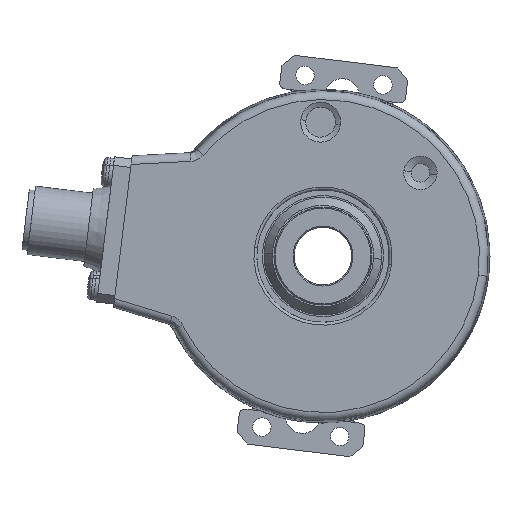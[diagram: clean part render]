
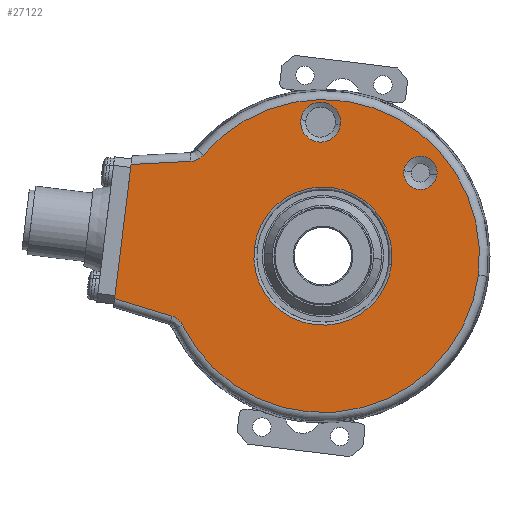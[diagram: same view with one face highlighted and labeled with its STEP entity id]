
A CAD part, left-side view. The second image highlights one B-rep face of the part: STEP entity #27122.
In plain terms, the highlighted planar face has unit normal (-1, 0, 0).
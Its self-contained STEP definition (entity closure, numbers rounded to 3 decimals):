
#5136 = ORIENTED_EDGE ( 'NONE', *, *, #5868, .T. ) ;
#5137 = ORIENTED_EDGE ( 'NONE', *, *, #6101, .T. ) ;
#5138 = ORIENTED_EDGE ( 'NONE', *, *, #6102, .T. ) ;
#5139 = ORIENTED_EDGE ( 'NONE', *, *, #5872, .T. ) ;
#5140 = ORIENTED_EDGE ( 'NONE', *, *, #6103, .T. ) ;
#5141 = ORIENTED_EDGE ( 'NONE', *, *, #6019, .T. ) ;
#5142 = ORIENTED_EDGE ( 'NONE', *, *, #6104, .F. ) ;
#5143 = ORIENTED_EDGE ( 'NONE', *, *, #6105, .F. ) ;
#5144 = ORIENTED_EDGE ( 'NONE', *, *, #6100, .T. ) ;
#5145 = ORIENTED_EDGE ( 'NONE', *, *, #6106, .T. ) ;
#5146 = ORIENTED_EDGE ( 'NONE', *, *, #6107, .F. ) ;
#5147 = ORIENTED_EDGE ( 'NONE', *, *, #6108, .T. ) ;
#5148 = ORIENTED_EDGE ( 'NONE', *, *, #6002, .T. ) ;
#5466 = VERTEX_POINT ( 'NONE', #14883 ) ;
#5471 = VERTEX_POINT ( 'NONE', #14888 ) ;
#5472 = VERTEX_POINT ( 'NONE', #14889 ) ;
#5480 = VERTEX_POINT ( 'NONE', #14897 ) ;
#5868 = EDGE_CURVE ( 'NONE', #5466, #5471, #7436, .T. ) ;
#5872 = EDGE_CURVE ( 'NONE', #5472, #5480, #7432, .T. ) ;
#6002 = EDGE_CURVE ( 'NONE', #7903, #7904, #7523, .T. ) ;
#6019 = EDGE_CURVE ( 'NONE', #7914, #7913, #7530, .T. ) ;
#6100 = EDGE_CURVE ( 'NONE', #7973, #7974, #16151, .T. ) ;
#6101 = EDGE_CURVE ( 'NONE', #5471, #5466, #7567, .T. ) ;
#6102 = EDGE_CURVE ( 'NONE', #5480, #5472, #7568, .T. ) ;
#6103 = EDGE_CURVE ( 'NONE', #7913, #7914, #7569, .T. ) ;
#6104 = EDGE_CURVE ( 'NONE', #7973, #7904, #36165, .T. ) ;
#6105 = EDGE_CURVE ( 'NONE', #7975, #7974, #16173, .T. ) ;
#6106 = EDGE_CURVE ( 'NONE', #7975, #7976, #16176, .T. ) ;
#6107 = EDGE_CURVE ( 'NONE', #7977, #7976, #36172, .T. ) ;
#6108 = EDGE_CURVE ( 'NONE', #7977, #7903, #7570, .T. ) ;
#7432 = CIRCLE ( 'NONE', #14008, 3.466 ) ;
#7436 = CIRCLE ( 'NONE', #14002, 2.899 ) ;
#7523 = CIRCLE ( 'NONE', #14163, 27.173 ) ;
#7530 = CIRCLE ( 'NONE', #14181, 12. ) ;
#7567 = CIRCLE ( 'NONE', #14243, 2.899 ) ;
#7568 = CIRCLE ( 'NONE', #14241, 3.466 ) ;
#7569 = CIRCLE ( 'NONE', #14244, 12. ) ;
#7570 = CIRCLE ( 'NONE', #14253, 27.173 ) ;
#7903 = VERTEX_POINT ( 'NONE', #22791 ) ;
#7904 = VERTEX_POINT ( 'NONE', #22792 ) ;
#7913 = VERTEX_POINT ( 'NONE', #22801 ) ;
#7914 = VERTEX_POINT ( 'NONE', #22802 ) ;
#7973 = VERTEX_POINT ( 'NONE', #22861 ) ;
#7974 = VERTEX_POINT ( 'NONE', #22862 ) ;
#7975 = VERTEX_POINT ( 'NONE', #22863 ) ;
#7976 = VERTEX_POINT ( 'NONE', #22864 ) ;
#7977 = VERTEX_POINT ( 'NONE', #22865 ) ;
#9266 = EDGE_LOOP ( 'NONE', ( #5142, #5144, #5143, #5145, #5146, #5147, #5148 ) ) ;
#9268 = EDGE_LOOP ( 'NONE', ( #5139, #5138 ) ) ;
#9340 = EDGE_LOOP ( 'NONE', ( #5136, #5137 ) ) ;
#9342 = EDGE_LOOP ( 'NONE', ( #5141, #5140 ) ) ;
#14002 = AXIS2_PLACEMENT_3D ( 'NONE', #15291, #15292, #15293 ) ;
#14008 = AXIS2_PLACEMENT_3D ( 'NONE', #15303, #15304, #15305 ) ;
#14163 = AXIS2_PLACEMENT_3D ( 'NONE', #15777, #15778, #15779 ) ;
#14181 = AXIS2_PLACEMENT_3D ( 'NONE', #15828, #15829, #15830 ) ;
#14241 = AXIS2_PLACEMENT_3D ( 'NONE', #16156, #16157, #16158 ) ;
#14243 = AXIS2_PLACEMENT_3D ( 'NONE', #16150, #16154, #16155 ) ;
#14244 = AXIS2_PLACEMENT_3D ( 'NONE', #16159, #16160, #16161 ) ;
#14247 = VECTOR ( 'NONE', #16153, 1000. ) ;
#14251 = VECTOR ( 'NONE', #16175, 1000. ) ;
#14253 = AXIS2_PLACEMENT_3D ( 'NONE', #16188, #16189, #16190 ) ;
#14254 = VECTOR ( 'NONE', #16178, 1000. ) ;
#14883 = CARTESIAN_POINT ( 'NONE',  ( -19., -14.042, 14.804 ) ) ;
#14888 = CARTESIAN_POINT ( 'NONE',  ( -19., -19.796, 14.097 ) ) ;
#14889 = CARTESIAN_POINT ( 'NONE',  ( -19., 3.846, 23.669 ) ) ;
#14897 = CARTESIAN_POINT ( 'NONE',  ( -19., -3.034, 22.824 ) ) ;
#15291 = CARTESIAN_POINT ( 'NONE',  ( -19., -16.919, 14.45 ) ) ;
#15292 = DIRECTION ( 'NONE',  ( 1., 0., 0. ) ) ;
#15293 = DIRECTION ( 'NONE',  ( 0., -0.993, -0.122 ) ) ;
#15303 = CARTESIAN_POINT ( 'NONE',  ( -19., 0.406, 23.246 ) ) ;
#15304 = DIRECTION ( 'NONE',  ( 1., 0., 0. ) ) ;
#15305 = DIRECTION ( 'NONE',  ( 0., -0.993, -0.122 ) ) ;
#15777 = CARTESIAN_POINT ( 'NONE',  ( -19., 0., 0. ) ) ;
#15778 = DIRECTION ( 'NONE',  ( -1., 0., 0. ) ) ;
#15779 = DIRECTION ( 'NONE',  ( 0., -0.993, -0.122 ) ) ;
#15828 = CARTESIAN_POINT ( 'NONE',  ( -19., 0., 0. ) ) ;
#15829 = DIRECTION ( 'NONE',  ( 1., 0., 0. ) ) ;
#15830 = DIRECTION ( 'NONE',  ( 0., -0.993, -0.122 ) ) ;
#16150 = CARTESIAN_POINT ( 'NONE',  ( -19., -16.919, 14.45 ) ) ;
#16151 = LINE ( 'NONE', #16152, #14247 ) ;
#16152 = CARTESIAN_POINT ( 'NONE',  ( -19., 33.046, 15.919 ) ) ;
#16153 = DIRECTION ( 'NONE',  ( 0., 0.999, -0.052 ) ) ;
#16154 = DIRECTION ( 'NONE',  ( 1., 0., 0. ) ) ;
#16155 = DIRECTION ( 'NONE',  ( 0., -0.993, -0.122 ) ) ;
#16156 = CARTESIAN_POINT ( 'NONE',  ( -19., 0.406, 23.246 ) ) ;
#16157 = DIRECTION ( 'NONE',  ( 1., 0., 0. ) ) ;
#16158 = DIRECTION ( 'NONE',  ( 0., -0.993, -0.122 ) ) ;
#16159 = CARTESIAN_POINT ( 'NONE',  ( -19., 0., 0. ) ) ;
#16160 = DIRECTION ( 'NONE',  ( 1., 0., 0. ) ) ;
#16161 = DIRECTION ( 'NONE',  ( 0., -0.993, -0.122 ) ) ;
#16162 = CARTESIAN_POINT ( 'NONE',  ( -19., 22.914, 16.45 ) ) ;
#16163 = CARTESIAN_POINT ( 'NONE',  ( -19., 22.708, 16.461 ) ) ;
#16164 = CARTESIAN_POINT ( 'NONE',  ( -19., 22.503, 16.493 ) ) ;
#16165 = CARTESIAN_POINT ( 'NONE',  ( -19., 22.108, 16.597 ) ) ;
#16166 = CARTESIAN_POINT ( 'NONE',  ( -19., 21.917, 16.669 ) ) ;
#16167 = CARTESIAN_POINT ( 'NONE',  ( -19., 21.552, 16.851 ) ) ;
#16168 = CARTESIAN_POINT ( 'NONE',  ( -19., 21.376, 16.962 ) ) ;
#16169 = CARTESIAN_POINT ( 'NONE',  ( -19., 21.056, 17.213 ) ) ;
#16170 = CARTESIAN_POINT ( 'NONE',  ( -19., 20.91, 17.355 ) ) ;
#16171 = CARTESIAN_POINT ( 'NONE',  ( -19., 20.777, 17.512 ) ) ;
#16172 = CARTESIAN_POINT ( 'NONE',  ( -19., 24.396, -11.966 ) ) ;
#16173 = LINE ( 'NONE', #16174, #14251 ) ;
#16174 = CARTESIAN_POINT ( 'NONE',  ( -19., 36.354, -8.886 ) ) ;
#16175 = DIRECTION ( 'NONE',  ( 0., -0.122, 0.993 ) ) ;
#16176 = LINE ( 'NONE', #16177, #14254 ) ;
#16177 = CARTESIAN_POINT ( 'NONE',  ( -19., 25.556, -10.618 ) ) ;
#16178 = DIRECTION ( 'NONE',  ( 0., -0.956, -0.292 ) ) ;
#16179 = CARTESIAN_POINT ( 'NONE',  ( -19., 24.487, -11.781 ) ) ;
#16180 = CARTESIAN_POINT ( 'NONE',  ( -19., 24.597, -11.605 ) ) ;
#16181 = CARTESIAN_POINT ( 'NONE',  ( -19., 24.848, -11.282 ) ) ;
#16182 = CARTESIAN_POINT ( 'NONE',  ( -19., 24.989, -11.135 ) ) ;
#16183 = CARTESIAN_POINT ( 'NONE',  ( -19., 25.3, -10.87 ) ) ;
#16184 = CARTESIAN_POINT ( 'NONE',  ( -19., 25.471, -10.753 ) ) ;
#16185 = CARTESIAN_POINT ( 'NONE',  ( -19., 25.828, -10.557 ) ) ;
#16186 = CARTESIAN_POINT ( 'NONE',  ( -19., 26.016, -10.478 ) ) ;
#16187 = CARTESIAN_POINT ( 'NONE',  ( -19., 26.213, -10.418 ) ) ;
#16188 = CARTESIAN_POINT ( 'NONE',  ( -19., 0., 0. ) ) ;
#16189 = DIRECTION ( 'NONE',  ( -1., 0., 0. ) ) ;
#16190 = DIRECTION ( 'NONE',  ( 0., -0.993, -0.122 ) ) ;
#22791 = CARTESIAN_POINT ( 'NONE',  ( -19., -26.97, -3.312 ) ) ;
#22792 = CARTESIAN_POINT ( 'NONE',  ( -19., 20.777, 17.512 ) ) ;
#22801 = CARTESIAN_POINT ( 'NONE',  ( -19., 11.911, 1.462 ) ) ;
#22802 = CARTESIAN_POINT ( 'NONE',  ( -19., -11.911, -1.462 ) ) ;
#22861 = CARTESIAN_POINT ( 'NONE',  ( -19., 22.914, 16.45 ) ) ;
#22862 = CARTESIAN_POINT ( 'NONE',  ( -19., 33.31, 15.905 ) ) ;
#22863 = CARTESIAN_POINT ( 'NONE',  ( -19., 36.168, -7.374 ) ) ;
#22864 = CARTESIAN_POINT ( 'NONE',  ( -19., 26.213, -10.418 ) ) ;
#22865 = CARTESIAN_POINT ( 'NONE',  ( -19., 24.396, -11.966 ) ) ;
#25354 = PLANE ( 'NONE',  #25854 ) ;
#25355 = CARTESIAN_POINT ( 'NONE',  ( -19., 0., 0. ) ) ;
#25356 = DIRECTION ( 'NONE',  ( 1., 0., 0. ) ) ;
#25357 = DIRECTION ( 'NONE',  ( 0., -0.993, -0.122 ) ) ;
#25847 = FACE_BOUND ( 'NONE', #9340, .T. ) ;
#25850 = FACE_BOUND ( 'NONE', #9268, .T. ) ;
#25852 = FACE_BOUND ( 'NONE', #9342, .T. ) ;
#25853 = FACE_OUTER_BOUND ( 'NONE', #9266, .T. ) ;
#25854 = AXIS2_PLACEMENT_3D ( 'NONE', #25355, #25356, #25357 ) ;
#27122 = ADVANCED_FACE ( 'NONE', ( #25847, #25850, #25852, #25853 ), #25354, .F. ) ;
#36165 = B_SPLINE_CURVE_WITH_KNOTS ( 'NONE', 3,
 ( #16162, #16163, #16164, #16165, #16166, #16167, #16168, #16169, #16170, #16171 ),
 .UNSPECIFIED., .F., .F.,
 ( 4, 2, 2, 2, 4 ),
 ( 0., 0.001, 0.001, 0.002, 0.002 ),
 .UNSPECIFIED. ) ;
#36172 = B_SPLINE_CURVE_WITH_KNOTS ( 'NONE', 3,
 ( #16172, #16179, #16180, #16181, #16182, #16183, #16184, #16185, #16186, #16187 ),
 .UNSPECIFIED., .F., .F.,
 ( 4, 2, 2, 2, 4 ),
 ( 0., 0.001, 0.001, 0.002, 0.002 ),
 .UNSPECIFIED. ) ;
